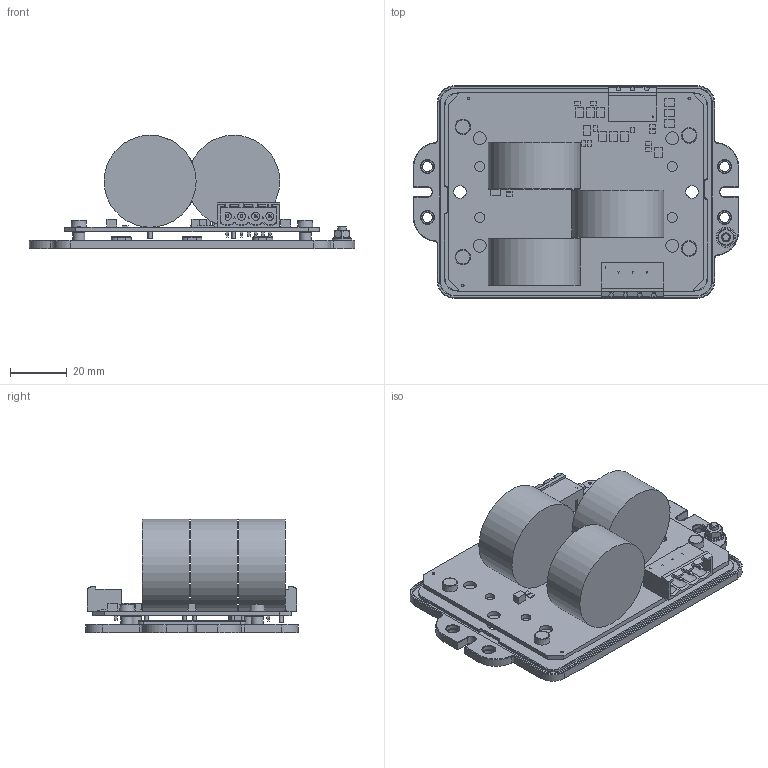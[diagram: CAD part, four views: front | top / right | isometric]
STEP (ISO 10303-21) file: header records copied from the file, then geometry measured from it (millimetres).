
FILE_DESCRIPTION(/* description */ (''),/* implementation_level */ '2;1');
FILE_NAME(/* name */ 'EFM 5008 S.stp',/* time_stamp */ '2020-08-07T09:25:58+02:00',/* author */ ('DR. FRITZ FAULHABER GmbH & Co. KG'),/* organization */ ('DR. FRITZ FAULHABER GmbH & Co. KG'),/* preprocessor_version */ 'ST-DEVELOPER v16.7',/* originating_system */ 'SIEMENS PLM Software NX 12.0',/* authorisation */ '');
FILE_SCHEMA (('AUTOMOTIVE_DESIGN { 1 0 10303 214 3 1 1 1 }'));
Length unit declared in the file: millimetre
Products named in the file (1): 012008_A_1-TP-00200
Bounding box: 115 x 75 x 40.09 mm (x, y, z)
Volume: 77314.5 mm3; surface area: 45217.5 mm2
Topology: 1 solids, 16 shells, 954 faces, 2441 edges, 1582 vertices
Faces by surface type: plane 618, cylinder 243, cone 81, torus 12
Full cylindrical faces by diameter (mm): 0.434 x1, 0.9 x3, 1.1 x6, 1.3 x7, 1.35 x6, 2.459 x2, 2.5 x4, 2.7 x1, 2.8 x3, 3 x7, 3.2 x5, 3.5 x8, 3.88 x4, 4.19 x4, 4.2 x4, 4.22 x2, 4.25 x2, 4.4 x4, 4.5 x4, 4.6 x4, 4.976 x2, 6 x2, 6.1 x1, 6.3 x2, 6.6 x2, 7 x1
Entity records: 28123 total; most frequent: CARTESIAN_POINT 5404, DIRECTION 4617, ORIENTED_EDGE 4482, EDGE_CURVE 2241, LINE 1595, VECTOR 1595, VERTEX_POINT 1528, AXIS2_PLACEMENT_3D 1511
